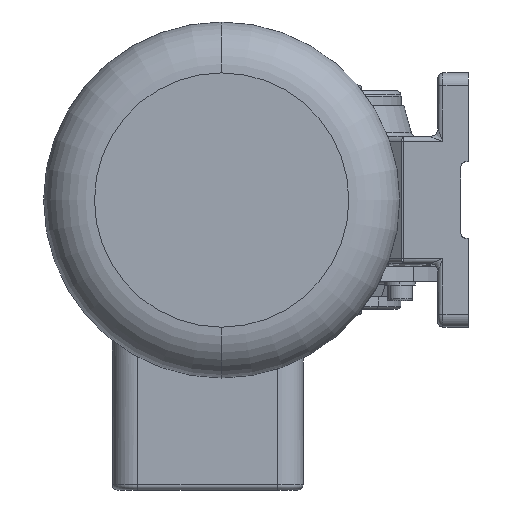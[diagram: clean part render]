
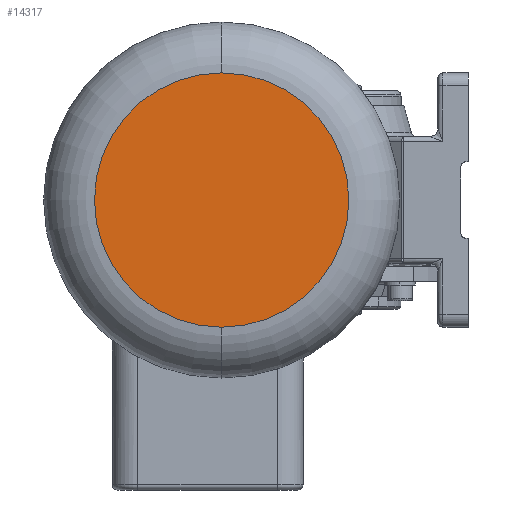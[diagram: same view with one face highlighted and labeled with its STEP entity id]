
A CAD part, left-side view. The second image highlights one B-rep face of the part: STEP entity #14317.
In plain terms, the highlighted planar face has unit normal (-1, 0, 0).
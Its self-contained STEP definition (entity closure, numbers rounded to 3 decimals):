
#247 = EDGE_CURVE ( 'NONE', #6509, #5752, #4415, .T. ) ;
#1091 = EDGE_CURVE ( 'NONE', #5752, #6509, #8632, .T. ) ;
#1218 = CARTESIAN_POINT ( 'NONE',  ( -378.378, 11.012, 0. ) ) ;
#1714 = ORIENTED_EDGE ( 'NONE', *, *, #1091, .T. ) ;
#2501 = AXIS2_PLACEMENT_3D ( 'NONE', #1218, #11359, #21744 ) ;
#2724 = CARTESIAN_POINT ( 'NONE',  ( -378.378, 11.012, -50. ) ) ;
#4390 = DIRECTION ( 'NONE',  ( 0., 0., -1. ) ) ;
#4415 = CIRCLE ( 'NONE', #6910, 50. ) ;
#5243 = PLANE ( 'NONE',  #2501 ) ;
#5681 = AXIS2_PLACEMENT_3D ( 'NONE', #6484, #6374, #13367 ) ;
#5752 = VERTEX_POINT ( 'NONE', #2724 ) ;
#6086 = CARTESIAN_POINT ( 'NONE',  ( -378.378, 11.012, 0. ) ) ;
#6374 = DIRECTION ( 'NONE',  ( -1., 0., 0. ) ) ;
#6484 = CARTESIAN_POINT ( 'NONE',  ( -378.378, 11.012, 0. ) ) ;
#6509 = VERTEX_POINT ( 'NONE', #14291 ) ;
#6910 = AXIS2_PLACEMENT_3D ( 'NONE', #6086, #7530, #4390 ) ;
#7530 = DIRECTION ( 'NONE',  ( -1., 0., 0. ) ) ;
#8632 = CIRCLE ( 'NONE', #5681, 50. ) ;
#8837 = ORIENTED_EDGE ( 'NONE', *, *, #247, .T. ) ;
#9709 = FACE_OUTER_BOUND ( 'NONE', #17403, .T. ) ;
#11359 = DIRECTION ( 'NONE',  ( 1., 0., 0. ) ) ;
#13367 = DIRECTION ( 'NONE',  ( 0., 0., -1. ) ) ;
#14291 = CARTESIAN_POINT ( 'NONE',  ( -378.378, 11.012, 50. ) ) ;
#14317 = ADVANCED_FACE ( 'NONE', ( #9709 ), #5243, .F. ) ;
#17403 = EDGE_LOOP ( 'NONE', ( #1714, #8837 ) ) ;
#21744 = DIRECTION ( 'NONE',  ( 0., 0., -1. ) ) ;
